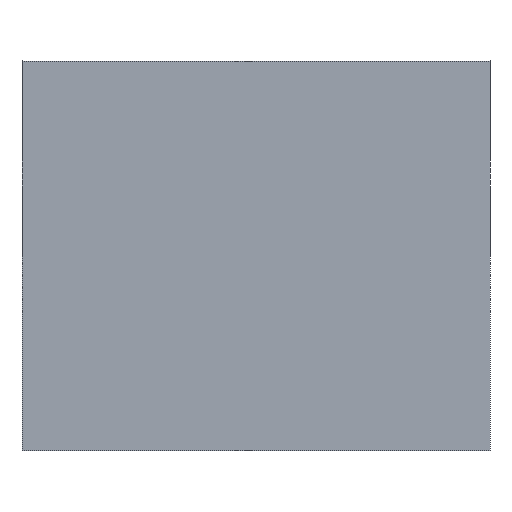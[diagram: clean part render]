
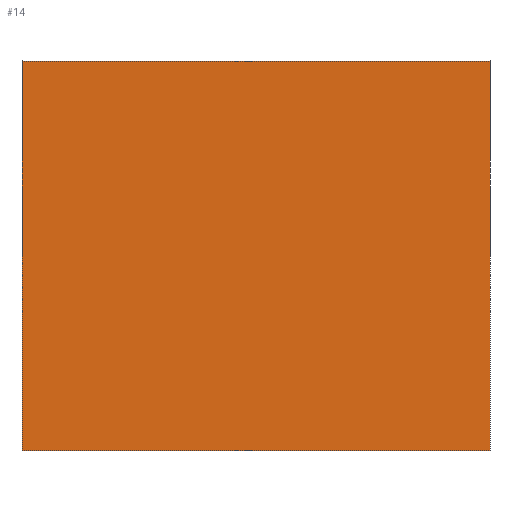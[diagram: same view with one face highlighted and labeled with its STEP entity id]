
A CAD part, front view. The second image highlights one B-rep face of the part: STEP entity #14.
In plain terms, the highlighted planar face has unit normal (0, -1, 0).
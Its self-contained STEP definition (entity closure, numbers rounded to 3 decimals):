
#14 = ADVANCED_FACE ( 'NONE', ( #114 ), #129, .F. ) ;
#17 = ORIENTED_EDGE ( 'NONE', *, *, #139, .F. ) ;
#21 = DIRECTION ( 'NONE',  ( 0., 1., 0. ) ) ;
#31 = CARTESIAN_POINT ( 'NONE',  ( -33.983, 0., -17.155 ) ) ;
#36 = VECTOR ( 'NONE', #160, 1000. ) ;
#40 = VECTOR ( 'NONE', #48, 1000. ) ;
#41 = DIRECTION ( 'NONE',  ( 1., 0., 0. ) ) ;
#48 = DIRECTION ( 'NONE',  ( 0., 0., -1. ) ) ;
#49 = EDGE_CURVE ( 'NONE', #125, #153, #65, .T. ) ;
#65 = LINE ( 'NONE', #204, #163 ) ;
#85 = CARTESIAN_POINT ( 'NONE',  ( -33.983, 0., -7.155 ) ) ;
#93 = VERTEX_POINT ( 'NONE', #208 ) ;
#98 = CARTESIAN_POINT ( 'NONE',  ( 0., 0., 0. ) ) ;
#104 = CARTESIAN_POINT ( 'NONE',  ( -21.983, 0., -17.155 ) ) ;
#110 = VERTEX_POINT ( 'NONE', #171 ) ;
#114 = FACE_OUTER_BOUND ( 'NONE', #161, .T. ) ;
#125 = VERTEX_POINT ( 'NONE', #85 ) ;
#129 = PLANE ( 'NONE',  #182 ) ;
#132 = CARTESIAN_POINT ( 'NONE',  ( -33.983, 0., -17.155 ) ) ;
#139 = EDGE_CURVE ( 'NONE', #93, #125, #223, .T. ) ;
#148 = ORIENTED_EDGE ( 'NONE', *, *, #207, .F. ) ;
#153 = VERTEX_POINT ( 'NONE', #154 ) ;
#154 = CARTESIAN_POINT ( 'NONE',  ( -21.983, 0., -7.155 ) ) ;
#158 = LINE ( 'NONE', #104, #40 ) ;
#160 = DIRECTION ( 'NONE',  ( -1., 0., 0. ) ) ;
#161 = EDGE_LOOP ( 'NONE', ( #17, #148, #185, #217 ) ) ;
#163 = VECTOR ( 'NONE', #41, 1000. ) ;
#170 = VECTOR ( 'NONE', #206, 1000. ) ;
#171 = CARTESIAN_POINT ( 'NONE',  ( -21.983, 0., -17.155 ) ) ;
#182 = AXIS2_PLACEMENT_3D ( 'NONE', #98, #21, #192 ) ;
#185 = ORIENTED_EDGE ( 'NONE', *, *, #211, .F. ) ;
#192 = DIRECTION ( 'NONE',  ( 0., 0., 1. ) ) ;
#199 = LINE ( 'NONE', #31, #36 ) ;
#204 = CARTESIAN_POINT ( 'NONE',  ( -33.983, 0., -7.155 ) ) ;
#206 = DIRECTION ( 'NONE',  ( 0., 0., 1. ) ) ;
#207 = EDGE_CURVE ( 'NONE', #110, #93, #199, .T. ) ;
#208 = CARTESIAN_POINT ( 'NONE',  ( -33.983, 0., -17.155 ) ) ;
#211 = EDGE_CURVE ( 'NONE', #153, #110, #158, .T. ) ;
#217 = ORIENTED_EDGE ( 'NONE', *, *, #49, .F. ) ;
#223 = LINE ( 'NONE', #132, #170 ) ;
